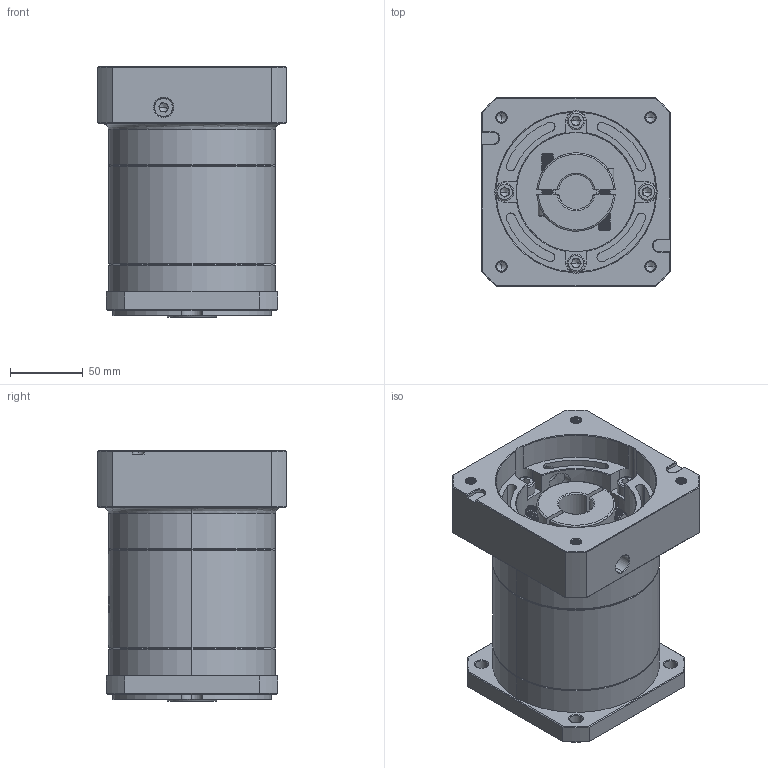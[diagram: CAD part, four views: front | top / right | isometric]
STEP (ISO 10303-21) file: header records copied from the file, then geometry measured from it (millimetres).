
FILE_DESCRIPTION (( 'STEP AP214' ), '1' );
FILE_NAME ('ZF120A-K25-L2-P2-24-110-145-M8.step', '2023-08-27T04:51:54', ( '' ), ( '' ), 'SwSTEP 2.0', 'SolidWorks 2016', '' );
FILE_SCHEMA (( 'AUTOMOTIVE_DESIGN' ));
Length unit declared in the file: millimetre
Products named in the file (1): ZF120A-K25-L2-P2-24-110-145-M8
Bounding box: 130 x 130 x 172.5 mm (x, y, z)
Volume: 1703358.7 mm3; surface area: 190593.9 mm2
Topology: 6 solids, 6 shells, 2222 faces, 5932 edges, 3809 vertices
Faces by surface type: plane 1053, cylinder 416, bspline 412, cone 321, torus 20
Entity records: 120897 total; most frequent: CARTESIAN_POINT 46277, ORIENTED_EDGE 11808, DIRECTION 8624, EDGE_CURVE 5904, VERTEX_POINT 3809, LINE 3120, VECTOR 3120, AXIS2_PLACEMENT_3D 2752
